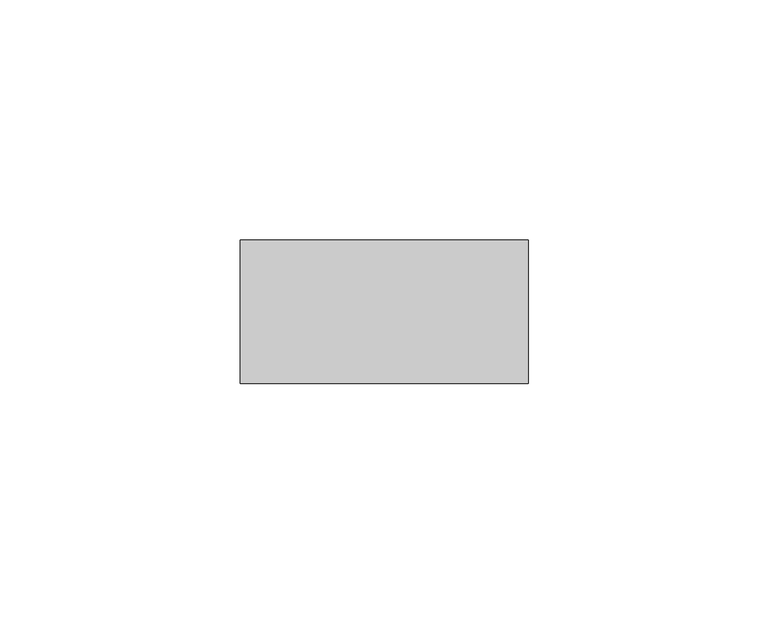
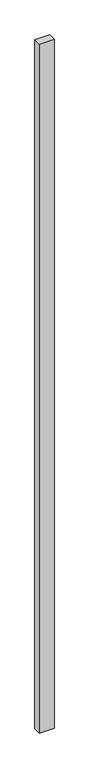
"""IFC4 building model written with IfcOpenShell, lengths in millimetres: member geometry, Прямоугольный импост : Квадрат 30 мм."""

from ifc_helpers import new_model, si_unit, frame, origin, place, context, project, spatial, polyline, outline, extrude, source, transform, mapped, element, save


def member_8bd22c1e(model_context):
    return source(origin(), model_context, "Body", "SweptSolid", [
        extrude(outline(polyline([(0.0, 15.0), (0.0, -15.0), (-60.0, -15.0), (-60.0, 15.0), (0.0, 15.0)])), frame((0.0, 0.0, -2940.0), z_axis=(0.0, 0.0, 1.0), x_axis=(1.0, 0.0, 0.0)), (0.0, 0.0, 1.0), 2940.0),
    ])


if __name__ == "__main__":
    model = new_model("IFC4")
    model_context = context("Model", 3, world=origin())
    ifc_project = project(units=[si_unit("LENGTHUNIT", "METRE", prefix="MILLI")], contexts=[model_context])
    site = spatial("IfcSite", under=ifc_project)
    building = spatial("IfcBuilding", under=site)
    placement = place(None, origin())
    member_shape = member_8bd22c1e(model_context)
    element("IfcMember", 1, ObjectType="Прямоугольный импост : Квадрат 30 мм", at=placement, inside=building, context=model_context, shape_type="MappedRepresentation", body=[
        mapped(member_shape, transform((0.0, 0.0, 0.0), x_axis=(1.0, 0.0, 0.0), y_axis=(0.0, 1.0, 0.0), z_axis=(0.0, 0.0, 1.0))),
    ])
    save(model, "model.ifc")
